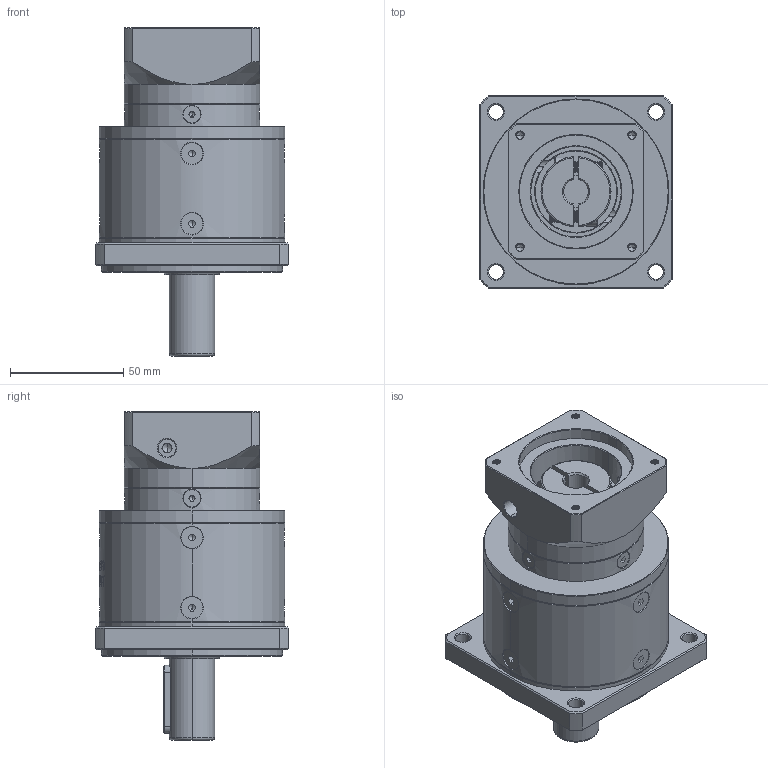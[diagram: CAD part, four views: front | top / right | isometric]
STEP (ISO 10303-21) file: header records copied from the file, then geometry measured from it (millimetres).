
FILE_DESCRIPTION (( 'STEP AP214' ), '1' );
FILE_NAME ('ZF080-D20-L2-P2-11-50-70-M4.step', '2023-08-19T06:52:25', ( '' ), ( '' ), 'SwSTEP 2.0', 'SolidWorks 2016', '' );
FILE_SCHEMA (( 'AUTOMOTIVE_DESIGN' ));
Length unit declared in the file: millimetre
Products named in the file (1): ZF080-D20-L2-P2-11-50-70-M4
Bounding box: 85 x 85 x 145 mm (x, y, z)
Volume: 469853.6 mm3; surface area: 67430.6 mm2
Topology: 18 solids, 18 shells, 2261 faces, 5954 edges, 3794 vertices
Faces by surface type: plane 1123, bspline 394, cylinder 375, cone 327, torus 42
Entity records: 116811 total; most frequent: CARTESIAN_POINT 40910, ORIENTED_EDGE 11832, DIRECTION 8907, EDGE_CURVE 5916, VERTEX_POINT 3794, LINE 3133, VECTOR 3133, AXIS2_PLACEMENT_3D 2887
